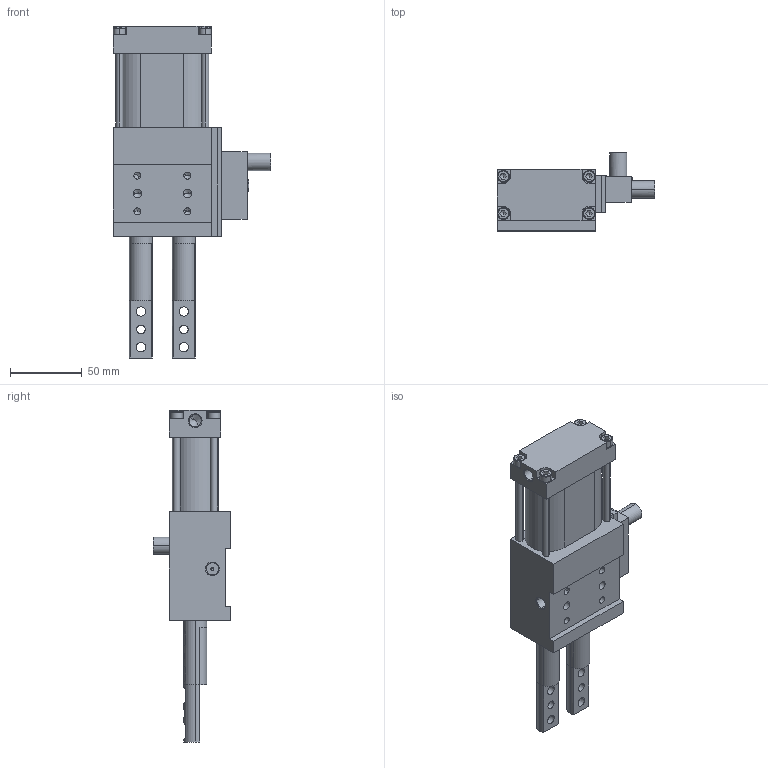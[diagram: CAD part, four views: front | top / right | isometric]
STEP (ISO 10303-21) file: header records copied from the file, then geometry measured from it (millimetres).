
FILE_DESCRIPTION(('CATIA V5 STEP Exchange'),'2;1');
FILE_NAME('C:\Users\huberm\Desktop\SZKD_40_A23_T12_TUENKERS.stp','2012-09-05T06:06:51+00:00',('none'),('none'),'CATIA Version 5 Release 19 SP 3 (IN-10)','CATIA V5 STEP AP203','none');
FILE_SCHEMA(('CONFIG_CONTROL_DESIGN'));
Length unit declared in the file: millimetre
Products named in the file (1): SZKD_40_A23_T12_TUENKERS
Bounding box: 110.1 x 54.5 x 232 mm (x, y, z)
Volume: 370152.8 mm3; surface area: 119418.2 mm2
Topology: 15 solids, 15 shells, 673 faces, 2044 edges, 1423 vertices
Faces by surface type: plane 280, bspline 168, cylinder 153, cone 54, torus 18
Entity records: 24095 total; most frequent: CARTESIAN_POINT 8150, ORIENTED_EDGE 4012, DIRECTION 2155, EDGE_CURVE 2006, VERTEX_POINT 1424, AXIS2_PLACEMENT_3D 883, EDGE_LOOP 788, VECTOR 770
